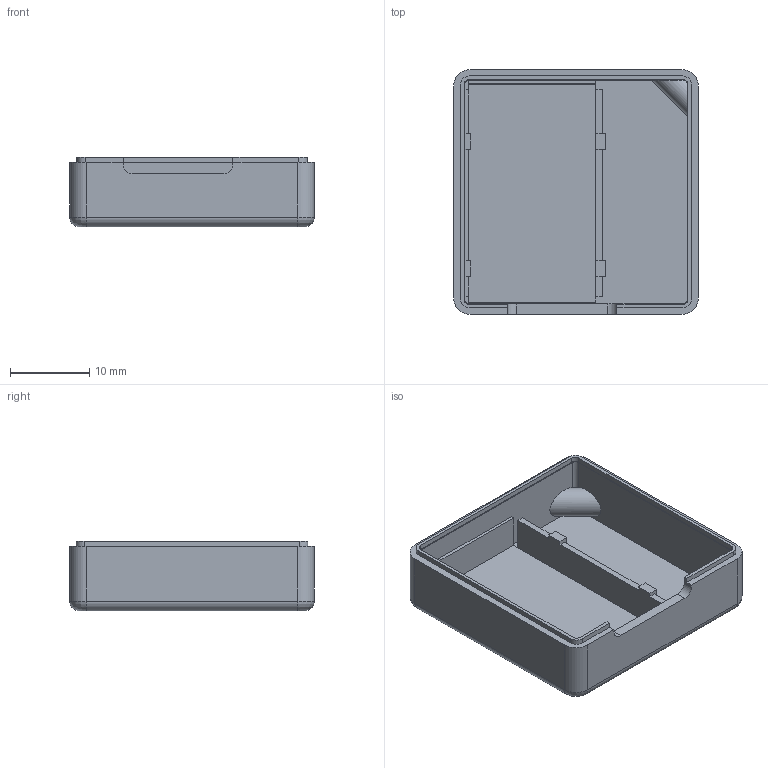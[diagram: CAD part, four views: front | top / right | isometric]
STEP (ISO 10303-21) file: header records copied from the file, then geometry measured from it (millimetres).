
FILE_DESCRIPTION(('Open CASCADE Model'),'2;1');
FILE_NAME('Open CASCADE Shape Model','2026-10-29T14:02:22',('Author'),( 'Open CASCADE'),'Open CASCADE STEP processor 7.9','Open CASCADE 7.9' ,'Unknown');
FILE_SCHEMA(('AUTOMOTIVE_DESIGN { 1 0 10303 214 1 1 1 1 }'));
Length unit declared in the file: millimetre
Products named in the file (1): Open CASCADE STEP translator 7.9 1
Bounding box: 30.8 x 30.8 x 8.75 mm (x, y, z)
Volume: 2224.9 mm3; surface area: 4127.3 mm2
Topology: 1 solids, 1 shells, 100 faces, 284 edges, 186 vertices
Faces by surface type: plane 71, cylinder 25, revolution 4
Full cylindrical faces by diameter (mm): 2 x1
Entity records: 6972 total; most frequent: CARTESIAN_POINT 1606, DIRECTION 895, ORIENTED_EDGE 568, PCURVE 568, DEFINITIONAL_REPRESENTATION 568, LINE 540, VECTOR 540, EDGE_CURVE 284
